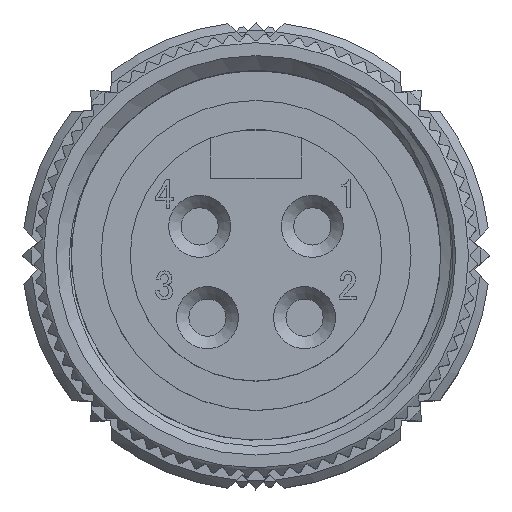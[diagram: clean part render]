
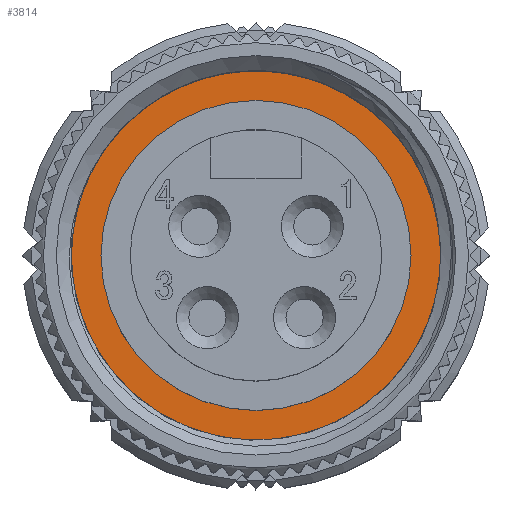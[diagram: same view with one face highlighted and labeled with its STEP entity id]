
A CAD part, top view. The second image highlights one B-rep face of the part: STEP entity #3814.
In plain terms, the highlighted planar face has unit normal (0, 0, 1).
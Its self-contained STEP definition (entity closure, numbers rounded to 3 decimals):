
#16 = DIRECTION ( 'NONE',  ( -1., 0., 0. ) ) ;
#1753 = CARTESIAN_POINT ( 'NONE',  ( -11.35, 0., -9.5 ) ) ;
#2704 = FACE_OUTER_BOUND ( 'NONE', #17530, .T. ) ;
#3528 = AXIS2_PLACEMENT_3D ( 'NONE', #20234, #31949, #14291 ) ;
#3614 = FACE_BOUND ( 'NONE', #16789, .T. ) ;
#3814 = ADVANCED_FACE ( 'NONE', ( #2704, #3614 ), #31071, .F. ) ;
#6968 = CIRCLE ( 'NONE', #3528, 8.75 ) ;
#10064 = ORIENTED_EDGE ( 'NONE', *, *, #28214, .F. ) ;
#14291 = DIRECTION ( 'NONE',  ( 1., 0., 0. ) ) ;
#15753 = AXIS2_PLACEMENT_3D ( 'NONE', #34065, #37196, #16617 ) ;
#16585 = CARTESIAN_POINT ( 'NONE',  ( 8.75, 0., -9.5 ) ) ;
#16617 = DIRECTION ( 'NONE',  ( 0., -1., 0. ) ) ;
#16789 = EDGE_LOOP ( 'NONE', ( #10064 ) ) ;
#17449 = CARTESIAN_POINT ( 'NONE',  ( 0., 0., -9.5 ) ) ;
#17530 = EDGE_LOOP ( 'NONE', ( #32171 ) ) ;
#17580 = DIRECTION ( 'NONE',  ( 0., 0., 1. ) ) ;
#20234 = CARTESIAN_POINT ( 'NONE',  ( 0., 0., -9.5 ) ) ;
#21867 = EDGE_CURVE ( 'NONE', #27343, #27343, #24757, .T. ) ;
#24757 = CIRCLE ( 'NONE', #25852, 11.35 ) ;
#25852 = AXIS2_PLACEMENT_3D ( 'NONE', #17449, #17580, #16 ) ;
#27343 = VERTEX_POINT ( 'NONE', #1753 ) ;
#28214 = EDGE_CURVE ( 'NONE', #32395, #32395, #6968, .T. ) ;
#31071 = PLANE ( 'NONE',  #15753 ) ;
#31949 = DIRECTION ( 'NONE',  ( 0., 0., 1. ) ) ;
#32171 = ORIENTED_EDGE ( 'NONE', *, *, #21867, .T. ) ;
#32395 = VERTEX_POINT ( 'NONE', #16585 ) ;
#34065 = CARTESIAN_POINT ( 'NONE',  ( 0., 10., -9.5 ) ) ;
#37196 = DIRECTION ( 'NONE',  ( 0., 0., -1. ) ) ;
